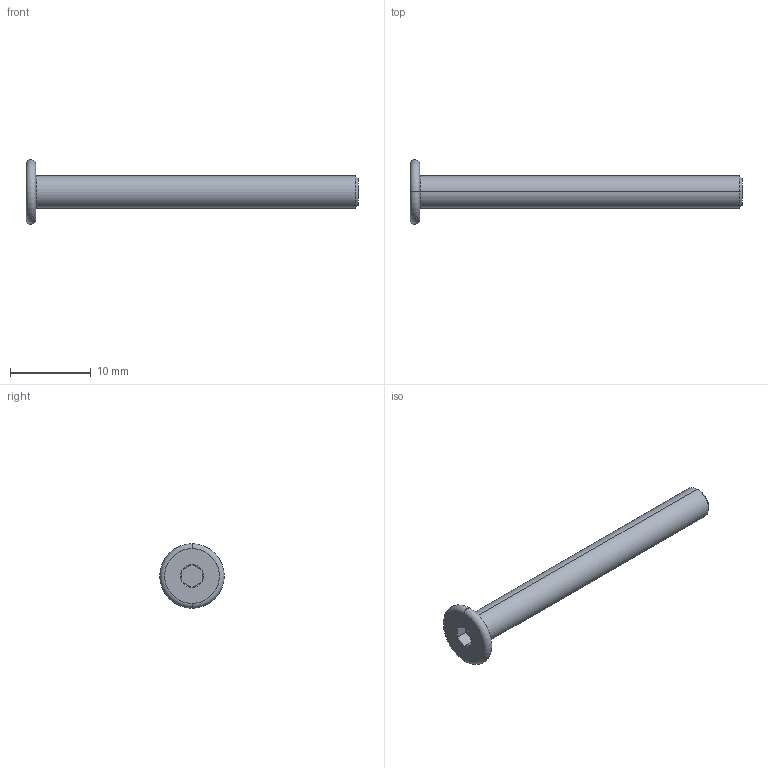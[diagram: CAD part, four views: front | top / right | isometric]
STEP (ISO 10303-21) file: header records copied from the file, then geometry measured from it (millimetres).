
FILE_DESCRIPTION (( 'STEP AP203' ), '1' );
FILE_NAME ('LGD-304M-M4x40.STEP', '2026-08-13T10:16:09', ( '' ), ( '' ), 'SwSTEP 2.0', 'SolidWorks 2020', '' );
FILE_SCHEMA (( 'CONFIG_CONTROL_DESIGN' ));
Length unit declared in the file: millimetre
Products named in the file (1): LGD-304M-M4x40
Bounding box: 41.2 x 8 x 8 mm (x, y, z)
Volume: 550.6 mm3; surface area: 629.9 mm2
Topology: 1 solids, 1 shells, 24 faces, 44 edges, 24 vertices
Faces by surface type: plane 10, cone 8, torus 4, cylinder 2
Entity records: 673 total; most frequent: CARTESIAN_POINT 119, DIRECTION 110, ORIENTED_EDGE 88, AXIS2_PLACEMENT_3D 47, EDGE_CURVE 44, EDGE_LOOP 26, ADVANCED_FACE 24, VERTEX_POINT 24
